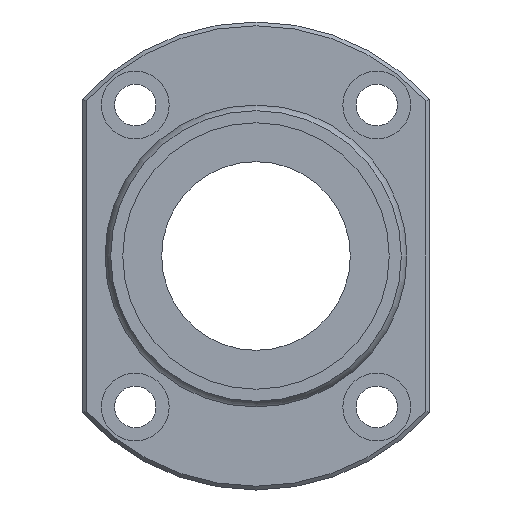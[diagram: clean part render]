
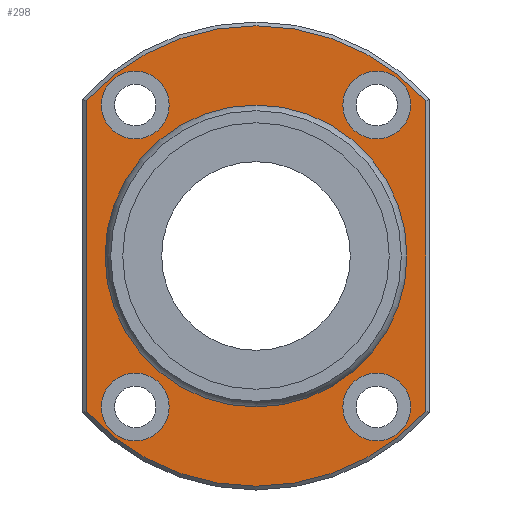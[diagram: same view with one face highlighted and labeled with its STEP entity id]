
A CAD part, left-side view. The second image highlights one B-rep face of the part: STEP entity #298.
In plain terms, the highlighted planar face has unit normal (-1, 0, 0).
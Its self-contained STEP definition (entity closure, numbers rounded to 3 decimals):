
#59=CARTESIAN_POINT('',(57.5,-22.5,20.591));
#60=VERTEX_POINT('',#59);
#68=CARTESIAN_POINT('',(57.5,-22.5,-20.591));
#69=VERTEX_POINT('',#68);
#70=CARTESIAN_POINT('',(57.5,-22.5,20.591));
#71=DIRECTION('',(0.0,0.0,-1.0));
#72=VECTOR('',#71,41.183);
#73=LINE('',#70,#72);
#74=EDGE_CURVE('',#60,#69,#73,.T.);
#101=CARTESIAN_POINT('',(57.5,22.5,-20.591));
#102=VERTEX_POINT('',#101);
#103=CARTESIAN_POINT('',(57.5,0.0,0.0));
#104=DIRECTION('',(1.0,0.0,0.0));
#105=DIRECTION('',(0.0,0.0,-1.0));
#106=AXIS2_PLACEMENT_3D('',#103,#104,#105);
#107=CIRCLE('',#106,30.5);
#108=EDGE_CURVE('',#69,#102,#107,.T.);
#134=CARTESIAN_POINT('',(57.5,22.5,20.591));
#135=VERTEX_POINT('',#134);
#136=CARTESIAN_POINT('',(57.5,22.5,-20.591));
#137=DIRECTION('',(0.0,0.0,1.0));
#138=VECTOR('',#137,41.183);
#139=LINE('',#136,#138);
#140=EDGE_CURVE('',#102,#135,#139,.T.);
#165=CARTESIAN_POINT('',(57.5,0.0,0.0));
#166=DIRECTION('',(1.0,0.0,0.0));
#167=DIRECTION('',(0.0,0.0,1.0));
#168=AXIS2_PLACEMENT_3D('',#165,#166,#167);
#169=CIRCLE('',#168,30.5);
#170=EDGE_CURVE('',#135,#60,#169,.T.);
#232=CARTESIAN_POINT('',(57.5,0.0,25.282));
#233=DIRECTION('',(-1.0,0.0,0.0));
#234=DIRECTION('',(0.0,0.0,1.0));
#235=AXIS2_PLACEMENT_3D('',#232,#233,#234);
#236=PLANE('',#235);
#237=ORIENTED_EDGE('',*,*,#74,.F.);
#238=ORIENTED_EDGE('',*,*,#170,.F.);
#239=ORIENTED_EDGE('',*,*,#140,.F.);
#240=ORIENTED_EDGE('',*,*,#108,.F.);
#241=EDGE_LOOP('',(#237,#238,#239,#240));
#242=FACE_OUTER_BOUND('',#241,.T.);
#243=CARTESIAN_POINT('',(57.5,0.0,19.564));
#244=VERTEX_POINT('',#243);
#245=CARTESIAN_POINT('',(57.5,0.0,0.0));
#246=DIRECTION('',(-1.0,0.0,0.0));
#247=DIRECTION('',(0.0,0.0,1.0));
#248=AXIS2_PLACEMENT_3D('',#245,#246,#247);
#249=CIRCLE('',#248,19.564);
#250=EDGE_CURVE('',#244,#244,#249,.T.);
#251=ORIENTED_EDGE('',*,*,#250,.F.);
#252=EDGE_LOOP('',(#251));
#253=FACE_BOUND('',#252,.T.);
#254=CARTESIAN_POINT('',(57.5,-11.5,-20.0));
#255=VERTEX_POINT('',#254);
#256=CARTESIAN_POINT('',(57.5,-16.,-20.0));
#257=DIRECTION('',(1.0,0.0,0.0));
#258=DIRECTION('',(0.0,1.0,0.0));
#259=AXIS2_PLACEMENT_3D('',#256,#257,#258);
#260=CIRCLE('',#259,4.5);
#261=EDGE_CURVE('',#255,#255,#260,.T.);
#262=ORIENTED_EDGE('',*,*,#261,.T.);
#263=EDGE_LOOP('',(#262));
#264=FACE_BOUND('',#263,.T.);
#265=CARTESIAN_POINT('',(57.5,-11.5,20.));
#266=VERTEX_POINT('',#265);
#267=CARTESIAN_POINT('',(57.5,-16.,20.));
#268=DIRECTION('',(1.0,0.0,0.0));
#269=DIRECTION('',(0.0,1.0,0.0));
#270=AXIS2_PLACEMENT_3D('',#267,#268,#269);
#271=CIRCLE('',#270,4.5);
#272=EDGE_CURVE('',#266,#266,#271,.T.);
#273=ORIENTED_EDGE('',*,*,#272,.T.);
#274=EDGE_LOOP('',(#273));
#275=FACE_BOUND('',#274,.T.);
#276=CARTESIAN_POINT('',(57.5,20.5,-20.0));
#277=VERTEX_POINT('',#276);
#278=CARTESIAN_POINT('',(57.5,16.,-20.0));
#279=DIRECTION('',(1.0,0.0,0.0));
#280=DIRECTION('',(0.0,1.0,0.0));
#281=AXIS2_PLACEMENT_3D('',#278,#279,#280);
#282=CIRCLE('',#281,4.5);
#283=EDGE_CURVE('',#277,#277,#282,.T.);
#284=ORIENTED_EDGE('',*,*,#283,.T.);
#285=EDGE_LOOP('',(#284));
#286=FACE_BOUND('',#285,.T.);
#287=CARTESIAN_POINT('',(57.5,20.5,20.));
#288=VERTEX_POINT('',#287);
#289=CARTESIAN_POINT('',(57.5,16.,20.));
#290=DIRECTION('',(1.0,0.0,0.0));
#291=DIRECTION('',(0.0,1.0,0.0));
#292=AXIS2_PLACEMENT_3D('',#289,#290,#291);
#293=CIRCLE('',#292,4.5);
#294=EDGE_CURVE('',#288,#288,#293,.T.);
#295=ORIENTED_EDGE('',*,*,#294,.T.);
#296=EDGE_LOOP('',(#295));
#297=FACE_BOUND('',#296,.T.);
#298=ADVANCED_FACE('',(#242,#253,#264,#275,#286,#297),#236,.T.);
